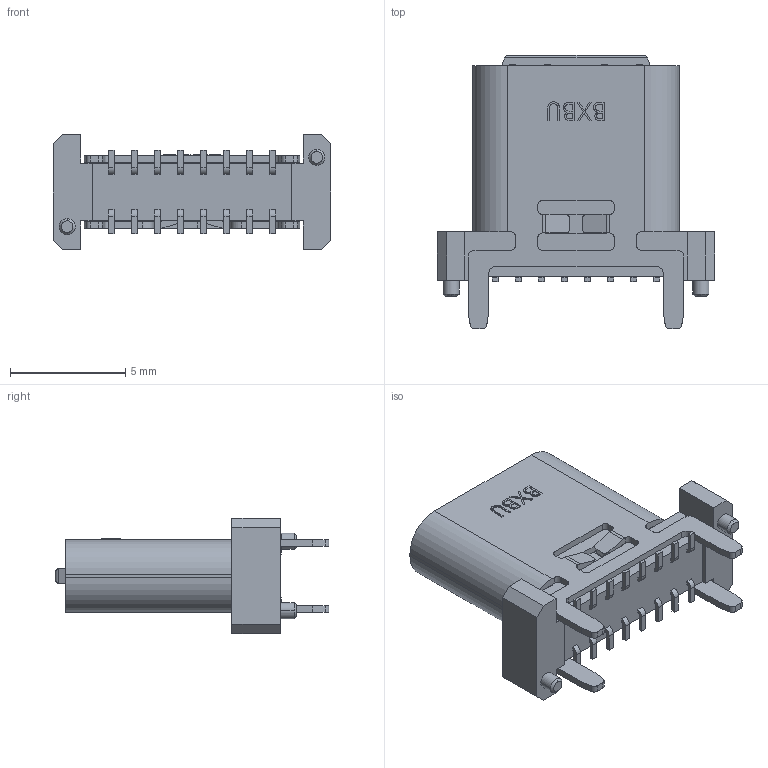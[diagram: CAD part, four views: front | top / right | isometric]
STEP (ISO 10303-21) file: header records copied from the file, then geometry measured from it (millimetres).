
FILE_DESCRIPTION (( 'STEP AP203' ), '1' );
FILE_NAME ('U5106-16PN9.3L.STEP', '2026-09-21T06:14:16', ( '' ), ( '' ), 'SwSTEP 2.0', 'SolidWorks 2024', '' );
FILE_SCHEMA (( 'CONFIG_CONTROL_DESIGN' ));
Length unit declared in the file: millimetre
Products named in the file (1): U5106-16PN9.3L
Bounding box: 12 x 11.86 x 5 mm (x, y, z)
Volume: 207.6 mm3; surface area: 661.8 mm2
Topology: 2 solids, 2 shells, 539 faces, 1490 edges, 988 vertices
Faces by surface type: plane 364, cylinder 138, bspline 25, cone 12
Entity records: 18539 total; most frequent: CARTESIAN_POINT 4597, ORIENTED_EDGE 2980, DIRECTION 2752, EDGE_CURVE 1490, LINE 1130, VECTOR 1130, VERTEX_POINT 988, AXIS2_PLACEMENT_3D 811
